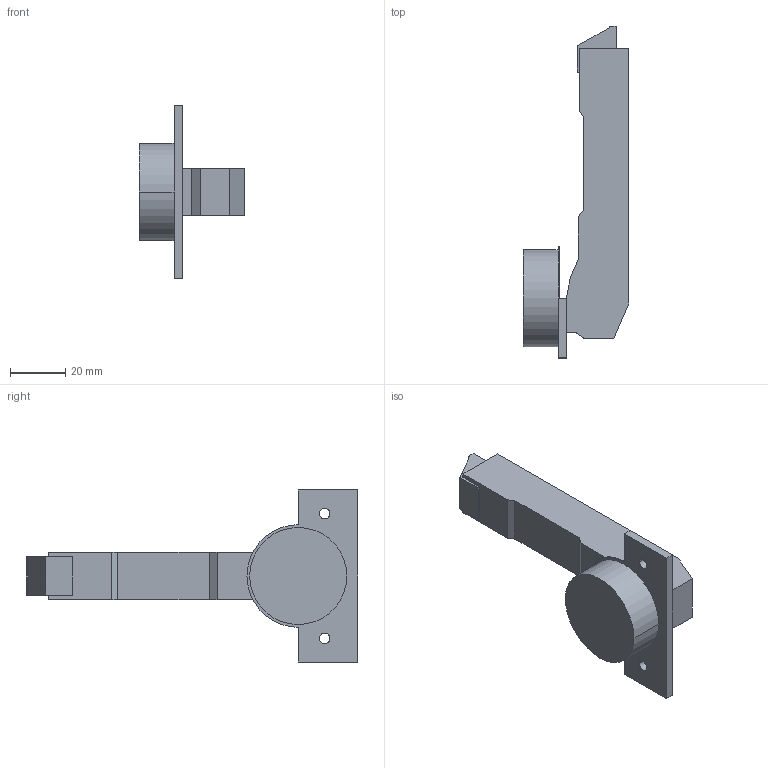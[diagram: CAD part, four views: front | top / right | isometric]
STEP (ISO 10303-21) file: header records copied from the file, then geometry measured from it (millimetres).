
FILE_DESCRIPTION (( 'STEP AP214' ), '1' );
FILE_NAME ('Scharnier TS Click-on 110° +90° B_BB, einliegend.step', '2010-12-13T10:22:47', ( 'grass' ), ( '' ), 'SwSTEP 2.0', 'SolidWorks 2010', '' );
FILE_SCHEMA (( 'AUTOMOTIVE_DESIGN' ));
Length unit declared in the file: millimetre
Products named in the file (1): Scharnier TS Click-on 110° +90° B_BB, einliegend
Bounding box: 38.15 x 119.6 x 62 mm (x, y, z)
Volume: 49116.3 mm3; surface area: 13583.9 mm2
Topology: 1 solids, 1 shells, 50 faces, 130 edges, 86 vertices
Faces by surface type: plane 36, cylinder 14
Entity records: 1568 total; most frequent: CARTESIAN_POINT 267, DIRECTION 260, ORIENTED_EDGE 260, EDGE_CURVE 130, VECTOR 102, LINE 102, VERTEX_POINT 86, AXIS2_PLACEMENT_3D 79
